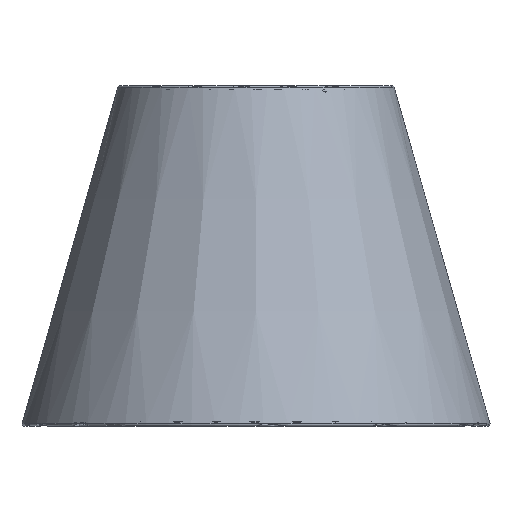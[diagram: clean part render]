
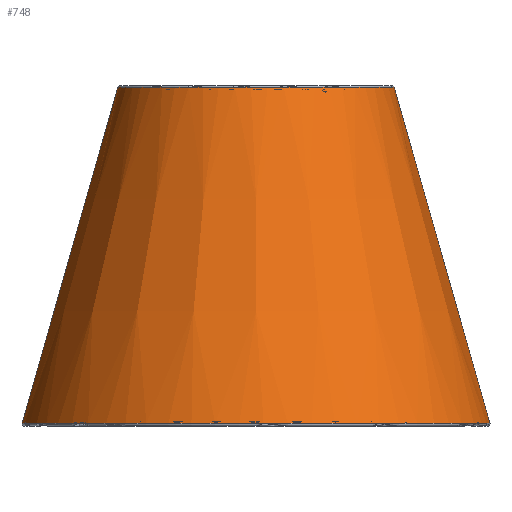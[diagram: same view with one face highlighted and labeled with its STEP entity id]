
A CAD part, front view. The second image highlights one B-rep face of the part: STEP entity #748.
In plain terms, the highlighted conical face has half-angle 15.898 degrees and reference radius 105.462 mm.
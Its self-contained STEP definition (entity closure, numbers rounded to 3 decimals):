
#28=CONICAL_SURFACE('',#833,105.462,0.277);
#116=LINE('',#2046,#156);
#117=LINE('',#2061,#157);
#156=VECTOR('',#1002,304.8);
#157=VECTOR('',#1003,304.8);
#226=FACE_OUTER_BOUND('',#282,.T.);
#282=EDGE_LOOP('',(#602,#603,#604,#605));
#323=B_SPLINE_CURVE_WITH_KNOTS('',3,(#1816,#1817,#1818,#1819,#1820,#1821,
#1822,#1823,#1824,#1825,#1826),.UNSPECIFIED.,.F.,.F.,(4,1,1,1,1,1,1,1,4),
(0.,0.125,0.25,0.375,0.5,0.625,0.75,0.875,1.),.UNSPECIFIED.);
#326=B_SPLINE_CURVE_WITH_KNOTS('',3,(#2048,#2049,#2050,#2051,#2052,#2053,
#2054,#2055,#2056,#2057,#2058,#2059,#2060),.UNSPECIFIED.,.F.,.F.,(4,1,1,
1,1,1,1,1,1,1,4),(0.,0.1,0.2,0.3,0.4,0.5,0.6,0.7,0.8,0.9,1.),
 .UNSPECIFIED.);
#364=VERTEX_POINT('',#1609);
#365=VERTEX_POINT('',#1815);
#366=VERTEX_POINT('',#2045);
#367=VERTEX_POINT('',#2047);
#443=EDGE_CURVE('',#365,#364,#323,.T.);
#446=EDGE_CURVE('',#366,#364,#116,.T.);
#447=EDGE_CURVE('',#367,#366,#326,.T.);
#448=EDGE_CURVE('',#365,#367,#117,.T.);
#602=ORIENTED_EDGE('',*,*,#443,.T.);
#603=ORIENTED_EDGE('',*,*,#446,.F.);
#604=ORIENTED_EDGE('',*,*,#447,.F.);
#605=ORIENTED_EDGE('',*,*,#448,.F.);
#748=ADVANCED_FACE('',(#226),#28,.T.);
#833=AXIS2_PLACEMENT_3D('',#2044,#1000,#1001);
#1000=DIRECTION('center_axis',(0.,0.,
-1.));
#1001=DIRECTION('ref_axis',(0.,-1.,0.));
#1002=DIRECTION('',(0.274,0.,0.962));
#1003=DIRECTION('',(0.274,0.,-0.962));
#1609=CARTESIAN_POINT('',(-64.962,0.,159.272));
#1815=CARTESIAN_POINT('',(64.962,0.,159.272));
#1816=CARTESIAN_POINT('Ctrl Pts',(64.962,0.,
159.272));
#1817=CARTESIAN_POINT('Ctrl Pts',(65.047,-8.538,159.272));
#1818=CARTESIAN_POINT('Ctrl Pts',(61.54,-25.491,159.272));
#1819=CARTESIAN_POINT('Ctrl Pts',(47.141,-47.135,159.272));
#1820=CARTESIAN_POINT('Ctrl Pts',(25.504,-61.578,159.272));
#1821=CARTESIAN_POINT('Ctrl Pts',(0.,-66.653,
159.272));
#1822=CARTESIAN_POINT('Ctrl Pts',(-25.504,-61.578,159.272));
#1823=CARTESIAN_POINT('Ctrl Pts',(-47.141,-47.135,159.272));
#1824=CARTESIAN_POINT('Ctrl Pts',(-61.54,-25.491,159.272));
#1825=CARTESIAN_POINT('Ctrl Pts',(-65.047,-8.538,159.272));
#1826=CARTESIAN_POINT('Ctrl Pts',(-64.962,0.,
159.272));
#2044=CARTESIAN_POINT('Origin',(0.,0.,17.077));
#2045=CARTESIAN_POINT('',(-109.962,0.,1.278));
#2046=CARTESIAN_POINT('',(-109.962,0.,1.278));
#2047=CARTESIAN_POINT('',(109.962,0.,1.278));
#2048=CARTESIAN_POINT('Ctrl Pts',(109.962,0.,
1.278));
#2049=CARTESIAN_POINT('Ctrl Pts',(110.023,-11.534,1.278));
#2050=CARTESIAN_POINT('Ctrl Pts',(106.286,-34.534,1.278));
#2051=CARTESIAN_POINT('Ctrl Pts',(90.444,-65.708,1.278));
#2052=CARTESIAN_POINT('Ctrl Pts',(65.704,-90.436,1.278));
#2053=CARTESIAN_POINT('Ctrl Pts',(34.544,-106.314,1.278));
#2054=CARTESIAN_POINT('Ctrl Pts',(0.,-111.785,
1.278));
#2055=CARTESIAN_POINT('Ctrl Pts',(-34.544,-106.314,1.278));
#2056=CARTESIAN_POINT('Ctrl Pts',(-65.704,-90.436,1.278));
#2057=CARTESIAN_POINT('Ctrl Pts',(-90.444,-65.708,1.278));
#2058=CARTESIAN_POINT('Ctrl Pts',(-106.286,-34.534,1.278));
#2059=CARTESIAN_POINT('Ctrl Pts',(-110.023,-11.534,1.278));
#2060=CARTESIAN_POINT('Ctrl Pts',(-109.962,0.,
1.278));
#2061=CARTESIAN_POINT('',(64.962,0.,159.272));
